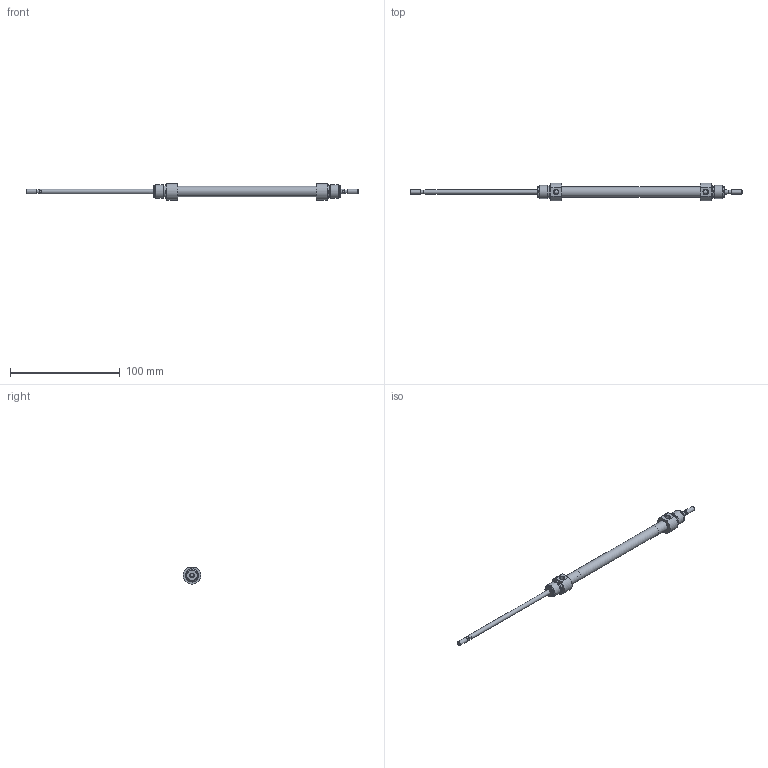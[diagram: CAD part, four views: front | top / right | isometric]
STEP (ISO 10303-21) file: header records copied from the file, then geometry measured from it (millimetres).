
FILE_DESCRIPTION( ( 'STEP AP203' ), '1' );
FILE_NAME( '//expscmdclustefs.cadenas.external/client_exchange/iodir/jobs/output/wkb68261504_no0/STEP/M101-08-0100--__0__2_03.stp', ' ', ( ' ' ), ( ' ' ), 'PSStep 15.0.47', 'PARTsolutions', ' ' );
FILE_SCHEMA( ( 'CONFIG_CONTROL_DESIGN' ) );
Length unit declared in the file: millimetre
Products named in the file (3): M101-08-0100-- [0]; HI_M101-08-0100---[0]-z; HI_M101-08-0100---[0]-k
Assembly tree (2 placements, depth 2):
  M101-08-0100-- [0]
    HI_M101-08-0100---[0]-z
    HI_M101-08-0100---[0]-k
Bounding box: 302 x 15.98 x 14.97 mm (x, y, z)
Volume: 12731.2 mm3; surface area: 13750.8 mm2
Topology: 2 solids, 2 shells, 71 faces, 145 edges, 88 vertices
Faces by surface type: plane 32, cylinder 23, cone 14, torus 2
Full cylindrical faces by diameter (mm): 3.141 x2, 4 x6, 4.134 x2, 8 x2, 9.3 x1, 10.466 x4, 12 x4
Entity records: 1832 total; most frequent: CARTESIAN_POINT 352, DIRECTION 312, ORIENTED_EDGE 212, AXIS2_PLACEMENT_3D 140, EDGE_LOOP 120, EDGE_CURVE 106, FACE_OUTER_BOUND 94, VERTEX_POINT 82
